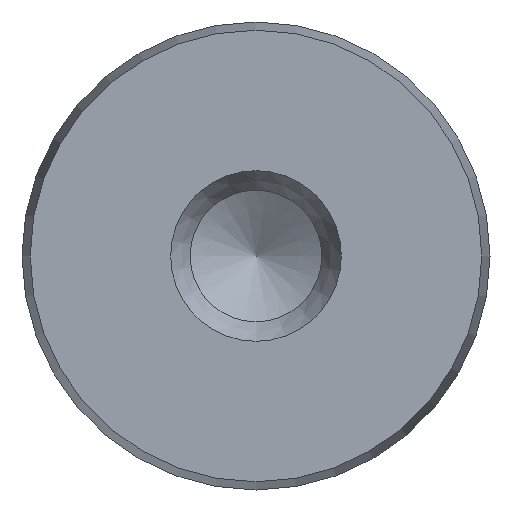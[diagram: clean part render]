
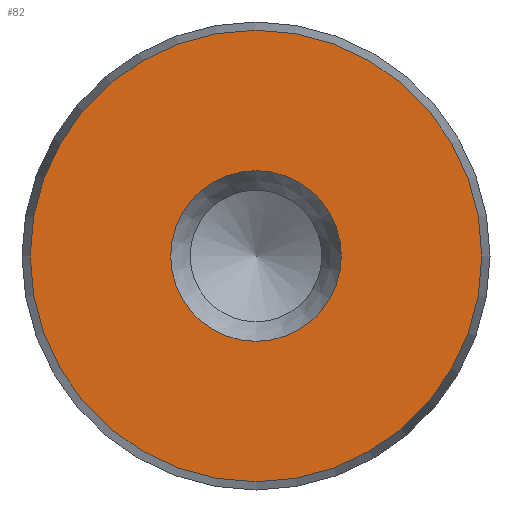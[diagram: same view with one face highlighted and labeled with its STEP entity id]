
A CAD part, front view. The second image highlights one B-rep face of the part: STEP entity #82.
In plain terms, the highlighted planar face has unit normal (0, -1, 0).
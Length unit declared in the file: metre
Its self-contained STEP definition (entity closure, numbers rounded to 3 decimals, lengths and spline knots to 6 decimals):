
#82 = ADVANCED_FACE( '', ( #108, #109 ), #110, .T. );
#108 = FACE_BOUND( '', #150, .T. );
#109 = FACE_OUTER_BOUND( '', #151, .T. );
#110 = PLANE( '', #152 );
#150 = EDGE_LOOP( '', ( #202 ) );
#151 = EDGE_LOOP( '', ( #203 ) );
#152 = AXIS2_PLACEMENT_3D( '', #204, #205, #206 );
#202 = ORIENTED_EDGE( '', *, *, #252, .T. );
#203 = ORIENTED_EDGE( '', *, *, #254, .T. );
#204 = CARTESIAN_POINT( '', ( 0., -0.09, 0. ) );
#205 = DIRECTION( '', ( 0., -1., 0. ) );
#206 = DIRECTION( '', ( 0., 0., -1. ) );
#252 = EDGE_CURVE( '', #270, #270, #271, .F. );
#254 = EDGE_CURVE( '', #274, #274, #275, .T. );
#270 = VERTEX_POINT( '', #296 );
#271 = CIRCLE( '', #297, 0.004375 );
#274 = VERTEX_POINT( '', #300 );
#275 = CIRCLE( '', #301, 0.011578 );
#296 = CARTESIAN_POINT( '', ( 0., -0.09, -0.004375 ) );
#297 = AXIS2_PLACEMENT_3D( '', #326, #327, #328 );
#300 = CARTESIAN_POINT( '', ( 0., -0.09, -0.011578 ) );
#301 = AXIS2_PLACEMENT_3D( '', #332, #333, #334 );
#326 = CARTESIAN_POINT( '', ( 0., -0.09, 0. ) );
#327 = DIRECTION( '', ( 0., -1., 0. ) );
#328 = DIRECTION( '', ( 0., 0., -1. ) );
#332 = CARTESIAN_POINT( '', ( 0., -0.09, 0. ) );
#333 = DIRECTION( '', ( 0., -1., 0. ) );
#334 = DIRECTION( '', ( 0., 0., -1. ) );
